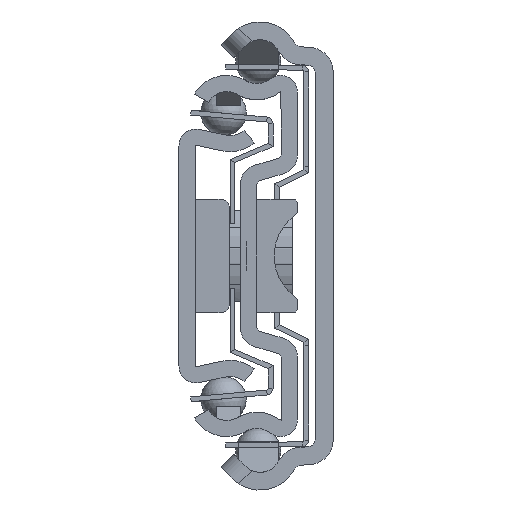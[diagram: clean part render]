
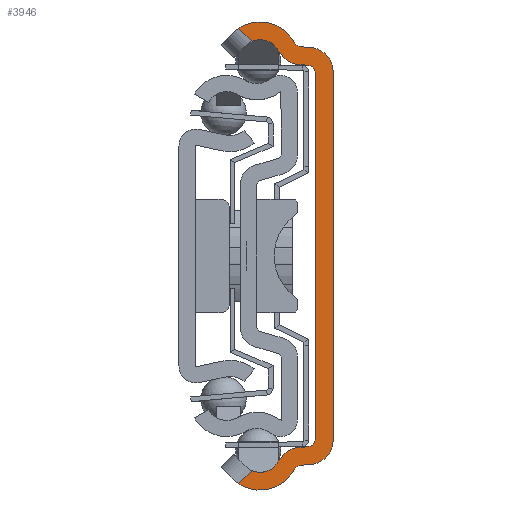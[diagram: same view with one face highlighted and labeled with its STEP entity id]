
A CAD part, left-side view. The second image highlights one B-rep face of the part: STEP entity #3946.
In plain terms, the highlighted planar face has unit normal (-1, 0, 0).
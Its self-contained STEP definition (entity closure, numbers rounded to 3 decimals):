
#1=DIRECTION('',(0.,0.717,-0.697));
#2=VECTOR('',#1,2.305);
#3=CARTESIAN_POINT('',(0.,9.972,-26.461));
#4=LINE('',#3,#2);
#5=CARTESIAN_POINT('',(0.,9.,-24.05));
#6=DIRECTION('',(-1.,0.,0.));
#7=DIRECTION('',(0.,0.374,-0.927));
#8=AXIS2_PLACEMENT_3D('',#5,#6,#7);
#10=CARTESIAN_POINT('',(0.,4.005,-26.582));
#11=DIRECTION('',(-1.,0.,0.));
#12=DIRECTION('',(0.,0.07,0.998));
#13=AXIS2_PLACEMENT_3D('',#10,#11,#12);
#15=DIRECTION('',(0.,-0.998,0.07));
#16=VECTOR('',#15,1.087);
#17=CARTESIAN_POINT('',(0.,4.214,-23.589));
#18=LINE('',#17,#16);
#19=DIRECTION('',(0.,0.,1.));
#20=VECTOR('',#19,45.032);
#21=CARTESIAN_POINT('',(0.,2.2,-22.516));
#22=LINE('',#21,#20);
#23=DIRECTION('',(0.,0.998,0.07));
#24=VECTOR('',#23,1.087);
#25=CARTESIAN_POINT('',(0.,3.13,23.514));
#26=LINE('',#25,#24);
#27=CARTESIAN_POINT('',(0.,4.005,26.582));
#28=DIRECTION('',(-1.,0.,0.));
#29=DIRECTION('',(0.,0.892,-0.452));
#30=AXIS2_PLACEMENT_3D('',#27,#28,#29);
#32=CARTESIAN_POINT('',(0.,9.,24.05));
#33=DIRECTION('',(-1.,0.,0.));
#34=DIRECTION('',(0.,-0.892,0.452));
#35=AXIS2_PLACEMENT_3D('',#32,#33,#34);
#37=DIRECTION('',(0.,-0.717,-0.697));
#38=VECTOR('',#37,2.305);
#39=CARTESIAN_POINT('',(0.,11.624,28.069));
#40=LINE('',#39,#38);
#41=CARTESIAN_POINT('',(0.,9.,24.05));
#42=DIRECTION('',(1.,0.,0.));
#43=DIRECTION('',(0.,0.547,0.837));
#44=AXIS2_PLACEMENT_3D('',#41,#42,#43);
#46=DIRECTION('',(0.,-0.998,-0.07));
#47=VECTOR('',#46,1.161);
#48=CARTESIAN_POINT('',(0.,3.949,25.776));
#49=LINE('',#48,#47);
#50=CARTESIAN_POINT('',(0.,3.,22.702));
#51=DIRECTION('',(-1.,0.,0.));
#52=DIRECTION('',(0.,-1.,0.));
#53=AXIS2_PLACEMENT_3D('',#50,#51,#52);
#55=DIRECTION('',(0.,0.,-1.));
#56=VECTOR('',#55,45.405);
#57=CARTESIAN_POINT('',(0.,0.,22.702));
#58=LINE('',#57,#56);
#59=CARTESIAN_POINT('',(0.,3.,-22.702));
#60=DIRECTION('',(-1.,0.,0.));
#61=DIRECTION('',(0.,-0.07,-0.998));
#62=AXIS2_PLACEMENT_3D('',#59,#60,#61);
#64=DIRECTION('',(0.,0.998,-0.07));
#65=VECTOR('',#64,1.161);
#66=CARTESIAN_POINT('',(0.,2.791,-25.695));
#67=LINE('',#66,#65);
#68=CARTESIAN_POINT('',(0.,9.,-24.05));
#69=DIRECTION('',(1.,0.,0.));
#70=DIRECTION('',(0.,-0.883,-0.47));
#71=AXIS2_PLACEMENT_3D('',#68,#69,#70);
#79=CARTESIAN_POINT('',(0.,11.624,-28.069));
#134=CARTESIAN_POINT('',(0.,9.972,-26.461));
#272=CARTESIAN_POINT('',(0.,9.972,26.461));
#379=CARTESIAN_POINT('',(0.,11.624,28.069));
#465=CARTESIAN_POINT('',(0.,3.2,22.516));
#466=DIRECTION('',(1.,0.,0.));
#467=DIRECTION('',(0.,-0.07,0.998));
#468=AXIS2_PLACEMENT_3D('',#465,#466,#467);
#1131=CARTESIAN_POINT('',(0.,3.2,-22.516));
#1132=DIRECTION('',(1.,0.,0.));
#1133=DIRECTION('',(0.,-1.,0.));
#1134=AXIS2_PLACEMENT_3D('',#1131,#1132,#1133);
#1817=CARTESIAN_POINT('',(0.,3.879,26.774));
#1818=DIRECTION('',(1.,0.,0.));
#1819=DIRECTION('',(0.,0.07,-0.998));
#1820=AXIS2_PLACEMENT_3D('',#1817,#1818,#1819);
#1835=CARTESIAN_POINT('',(0.,3.879,-26.774));
#1836=DIRECTION('',(1.,0.,0.));
#1837=DIRECTION('',(0.,0.883,0.47));
#1838=AXIS2_PLACEMENT_3D('',#1835,#1836,#1837);
#3081=CARTESIAN_POINT('',(0.,2.2,-22.516));
#3083=VERTEX_POINT('',#3081);
#3085=CARTESIAN_POINT('',(0.,3.13,-23.514));
#3087=VERTEX_POINT('',#3085);
#3089=CARTESIAN_POINT('',(0.,3.13,23.514));
#3091=VERTEX_POINT('',#3089);
#3093=CARTESIAN_POINT('',(0.,2.2,22.516));
#3095=VERTEX_POINT('',#3093);
#3097=CARTESIAN_POINT('',(0.,3.949,25.776));
#3099=VERTEX_POINT('',#3097);
#3101=CARTESIAN_POINT('',(0.,4.762,26.304));
#3103=VERTEX_POINT('',#3101);
#3105=CARTESIAN_POINT('',(0.,4.762,-26.304));
#3107=VERTEX_POINT('',#3105);
#3109=CARTESIAN_POINT('',(0.,3.949,-25.776));
#3111=VERTEX_POINT('',#3109);
#3113=CARTESIAN_POINT('',(0.,4.214,-23.589));
#3114=CARTESIAN_POINT('',(0.,6.681,-25.226));
#3115=VERTEX_POINT('',#3113);
#3116=VERTEX_POINT('',#3114);
#3121=CARTESIAN_POINT('',(0.,6.681,25.226));
#3122=CARTESIAN_POINT('',(0.,4.214,23.589));
#3123=VERTEX_POINT('',#3121);
#3124=VERTEX_POINT('',#3122);
#3129=CARTESIAN_POINT('',(0.,0.,22.702));
#3130=CARTESIAN_POINT('',(0.,2.791,25.695));
#3131=VERTEX_POINT('',#3129);
#3132=VERTEX_POINT('',#3130);
#3137=CARTESIAN_POINT('',(0.,2.791,-25.695));
#3138=CARTESIAN_POINT('',(0.,0.,-22.702));
#3139=VERTEX_POINT('',#3137);
#3140=VERTEX_POINT('',#3138);
#3775=VERTEX_POINT('',#79);
#3783=VERTEX_POINT('',#134);
#3784=VERTEX_POINT('',#272);
#3792=VERTEX_POINT('',#379);
#3899=CARTESIAN_POINT('',(0.,0.,0.));
#3900=DIRECTION('',(1.,0.,0.));
#3901=DIRECTION('',(0.,-1.,0.));
#3902=AXIS2_PLACEMENT_3D('',#3899,#3900,#3901);
#3903=PLANE('',#3902);
#3905=ORIENTED_EDGE('',*,*,#3904,.F.);
#3907=ORIENTED_EDGE('',*,*,#3906,.T.);
#3909=ORIENTED_EDGE('',*,*,#3908,.F.);
#3911=ORIENTED_EDGE('',*,*,#3910,.T.);
#3913=ORIENTED_EDGE('',*,*,#3912,.F.);
#3915=ORIENTED_EDGE('',*,*,#3914,.T.);
#3917=ORIENTED_EDGE('',*,*,#3916,.F.);
#3919=ORIENTED_EDGE('',*,*,#3918,.T.);
#3921=ORIENTED_EDGE('',*,*,#3920,.F.);
#3923=ORIENTED_EDGE('',*,*,#3922,.T.);
#3925=ORIENTED_EDGE('',*,*,#3924,.F.);
#3927=ORIENTED_EDGE('',*,*,#3926,.T.);
#3929=ORIENTED_EDGE('',*,*,#3928,.F.);
#3931=ORIENTED_EDGE('',*,*,#3930,.T.);
#3933=ORIENTED_EDGE('',*,*,#3932,.F.);
#3935=ORIENTED_EDGE('',*,*,#3934,.T.);
#3937=ORIENTED_EDGE('',*,*,#3936,.F.);
#3939=ORIENTED_EDGE('',*,*,#3938,.T.);
#3941=ORIENTED_EDGE('',*,*,#3940,.F.);
#3943=ORIENTED_EDGE('',*,*,#3942,.T.);
#3944=EDGE_LOOP('',(#3905,#3907,#3909,#3911,#3913,#3915,#3917,#3919,#3921,#3923,
#3925,#3927,#3929,#3931,#3933,#3935,#3937,#3939,#3941,#3943));
#3945=FACE_OUTER_BOUND('',#3944,.F.);
#9=CIRCLE('',#8,2.6);
#14=CIRCLE('',#13,3.);
#31=CIRCLE('',#30,3.);
#36=CIRCLE('',#35,2.6);
#45=CIRCLE('',#44,4.8);
#54=CIRCLE('',#53,3.);
#63=CIRCLE('',#62,3.);
#72=CIRCLE('',#71,4.8);
#469=CIRCLE('',#468,1.);
#1135=CIRCLE('',#1134,1.);
#1821=CIRCLE('',#1820,1.);
#1839=CIRCLE('',#1838,1.);
#3904=EDGE_CURVE('',#3783,#3775,#4,.T.);
#3906=EDGE_CURVE('',#3783,#3116,#9,.T.);
#3908=EDGE_CURVE('',#3115,#3116,#14,.T.);
#3910=EDGE_CURVE('',#3115,#3087,#18,.T.);
#3912=EDGE_CURVE('',#3083,#3087,#1135,.T.);
#3914=EDGE_CURVE('',#3083,#3095,#22,.T.);
#3916=EDGE_CURVE('',#3091,#3095,#469,.T.);
#3918=EDGE_CURVE('',#3091,#3124,#26,.T.);
#3920=EDGE_CURVE('',#3123,#3124,#31,.T.);
#3922=EDGE_CURVE('',#3123,#3784,#36,.T.);
#3924=EDGE_CURVE('',#3792,#3784,#40,.T.);
#3926=EDGE_CURVE('',#3792,#3103,#45,.T.);
#3928=EDGE_CURVE('',#3099,#3103,#1821,.T.);
#3930=EDGE_CURVE('',#3099,#3132,#49,.T.);
#3932=EDGE_CURVE('',#3131,#3132,#54,.T.);
#3934=EDGE_CURVE('',#3131,#3140,#58,.T.);
#3936=EDGE_CURVE('',#3139,#3140,#63,.T.);
#3938=EDGE_CURVE('',#3139,#3111,#67,.T.);
#3940=EDGE_CURVE('',#3107,#3111,#1839,.T.);
#3942=EDGE_CURVE('',#3107,#3775,#72,.T.);
#3946=ADVANCED_FACE('',(#3945),#3903,.F.);
